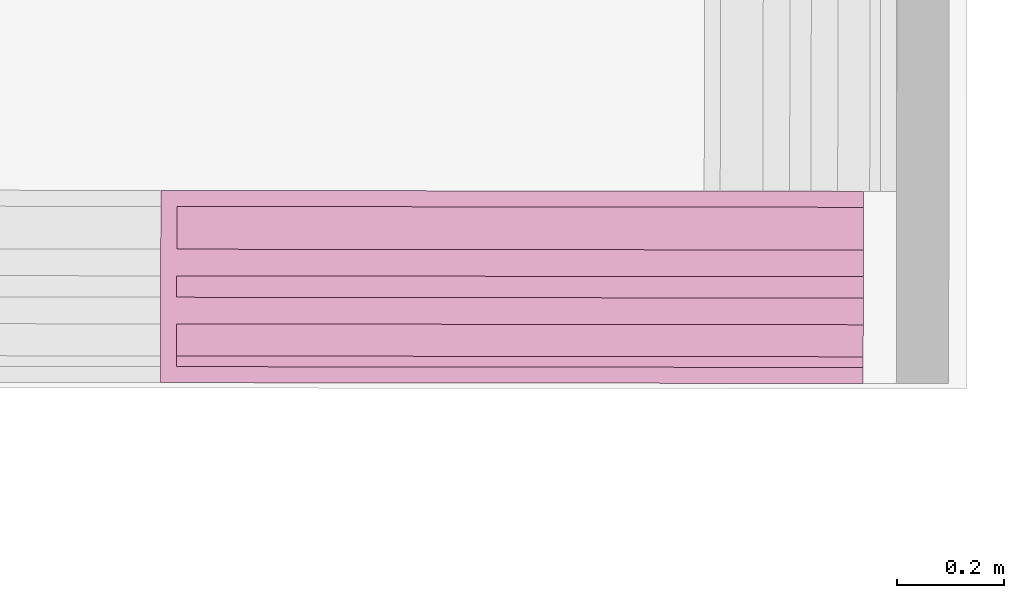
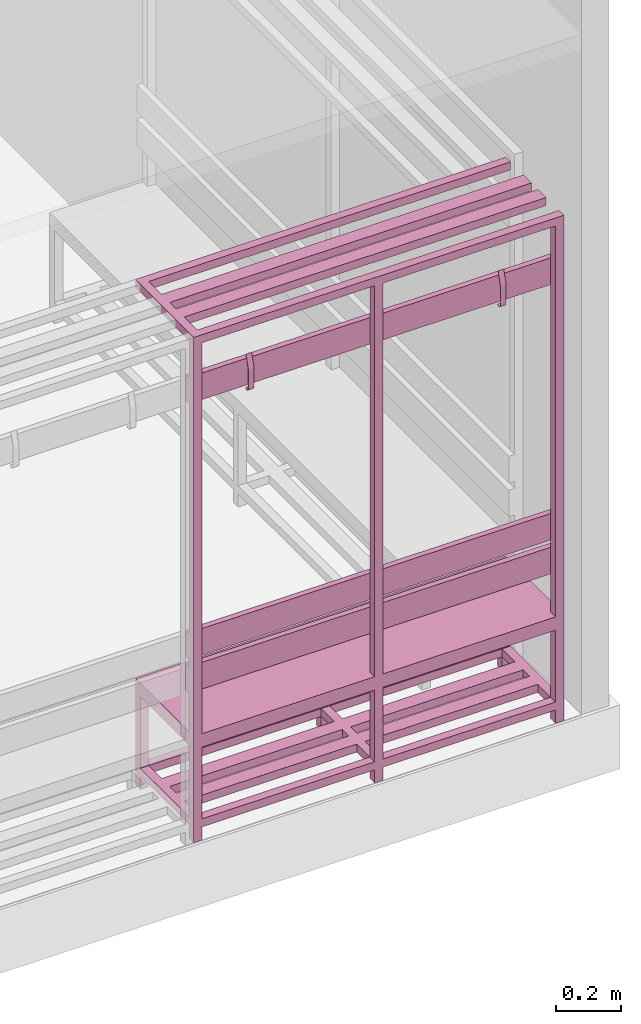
# One storey, part 39 of 43: 1 furnishing.
"""IFC2X3 building model written with IfcOpenShell, lengths in metres."""

from ifc_helpers import new_model, entity, si_unit, converted_unit, derived_unit, direction, frame, frame_2d, origin, origin_2d_with_axis, place, context, subcontext, project, spatial, polyline, circle_curve, parameter, trimmed, segment, composite_curve, rectangle, outline, extrude, source, transform, mapped, material, material_list, type_object, type_shapes, element, save


model = new_model("IFC2X3")

# Units and contexts
model_context = context("Model", 3, precision=1e-05, world=origin(), true_north=direction((6.123233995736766e-17, 1.0)))
body_context = subcontext(model_context, "Body", "Model", "MODEL_VIEW")
ifc_project = project(units=[si_unit("LENGTHUNIT", "METRE"), si_unit("AREAUNIT", "SQUARE_METRE"), converted_unit("PLANEANGLEUNIT", "DEGREE", entity("IfcPlaneAngleMeasure", 0.017453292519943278), si_unit("PLANEANGLEUNIT", "RADIAN"), dimensions=[0, 0, 0, 0, 0, 0, 0]), derived_unit("THERMALTRANSMITTANCEUNIT", [(si_unit("MASSUNIT", "GRAM", prefix="KILO"), 1), (si_unit("THERMODYNAMICTEMPERATUREUNIT", "KELVIN"), -1), (si_unit("TIMEUNIT", "SECOND"), -3)])], contexts=[model_context])

# Site, building, storey
site_placement = place(None, frame((1253.6752467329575, 2072.143113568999, 91.49999999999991), z_axis=(0.0, 0.0, 1.0), x_axis=(0.7237211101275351, 0.6900925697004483, 0.0)))
site = spatial("IfcSite", under=ifc_project, at=site_placement, Name="Surface", CompositionType="ELEMENT")
building_placement = place(site_placement, origin())
building = spatial("IfcBuilding", under=site, at=building_placement, CompositionType="ELEMENT")
storey_placement = place(building_placement, frame((0.0, 0.0, -4.629999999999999)))
storey = spatial("IfcBuildingStorey", under=building, at=storey_placement, Name="rez de rue -1.10m", CompositionType="ELEMENT", Elevation=-4.629999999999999)

# Furnishing
ifc_material_1 = material(Name="Peinture - Grise")
ifc_material_2 = material(Name="<Unnamed>")
ifc_material_3 = material(Name="mat2")
ifc_material_list = material_list([ifc_material_1, ifc_material_2, ifc_material_3])
furniture_type = type_object("IfcFurnitureType", Name="bancpateres:bancpateres", AssemblyPlace="NOTDEFINED", material=ifc_material_list)
shared_shape = source(origin(), body_context, "Body", "SweptSolid", [
    extrude(outline(composite_curve([segment(polyline([(-0.026119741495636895, -0.008725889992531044), (0.04695541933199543, -0.008725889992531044)]), True, "CONTINUOUS"), segment(trimmed(circle_curve(frame_2d((0.04695541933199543, 0.0020852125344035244), x_axis=(-1.0, 0.0)), 0.010811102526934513), [parameter(90.00000000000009)], [parameter(230.9999999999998)], True, "PARAMETER"), True, "CONTINUOUS"), segment(polyline([(0.05375906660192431, 0.010487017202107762), (0.05312974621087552, 0.009709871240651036)]), True, "CONTINUOUS"), segment(trimmed(circle_curve(frame_2d((0.04695541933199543, 0.0020852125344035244), x_axis=(-1.0, 0.0)), 0.009811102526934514), [parameter(90.00000000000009)], [parameter(230.99999999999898)], True, "PARAMETER"), False, "CONTINUOUS"), segment(polyline([(0.04695541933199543, -0.007725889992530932), (-0.025972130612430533, -0.007725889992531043)]), True, "CONTINUOUS"), segment(polyline([(-0.025972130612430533, -0.007725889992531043), (-0.07420942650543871, 0.00683201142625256)]), True, "CONTINUOUS"), segment(polyline([(-0.07420942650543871, 0.00683201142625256), (-0.07449835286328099, 0.005874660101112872)]), True, "CONTINUOUS"), segment(polyline([(-0.07449835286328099, 0.005874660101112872), (-0.026119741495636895, -0.008725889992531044)]), True, "CONTINUOUS")], self_intersect=False)), frame((-0.29593292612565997, -0.49127411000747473, 6.308572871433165), z_axis=(1.0, 0.0, 0.0), x_axis=(0.0, 0.0, -1.0)), (0.0, 0.0, 1.0), 0.019999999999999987),
    extrude(outline(composite_curve([segment(polyline([(-0.026119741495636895, -0.008725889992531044), (0.04695541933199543, -0.008725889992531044)]), True, "CONTINUOUS"), segment(trimmed(circle_curve(frame_2d((0.04695541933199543, 0.0020852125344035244), x_axis=(-1.0, 0.0)), 0.010811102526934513), [parameter(90.00000000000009)], [parameter(230.9999999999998)], True, "PARAMETER"), True, "CONTINUOUS"), segment(polyline([(0.05375906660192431, 0.010487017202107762), (0.05312974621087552, 0.00970987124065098)]), True, "CONTINUOUS"), segment(trimmed(circle_curve(frame_2d((0.04695541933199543, 0.0020852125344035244), x_axis=(-1.0, 0.0)), 0.009811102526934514), [parameter(90.00000000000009)], [parameter(230.99999999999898)], True, "PARAMETER"), False, "CONTINUOUS"), segment(polyline([(0.04695541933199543, -0.007725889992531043), (-0.025972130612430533, -0.007725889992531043)]), True, "CONTINUOUS"), segment(polyline([(-0.025972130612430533, -0.007725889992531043), (-0.07420942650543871, 0.00683201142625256)]), True, "CONTINUOUS"), segment(polyline([(-0.07420942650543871, 0.00683201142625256), (-0.07449835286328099, 0.005874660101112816)]), True, "CONTINUOUS"), segment(polyline([(-0.07449835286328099, 0.005874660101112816), (-0.026119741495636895, -0.008725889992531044)]), True, "CONTINUOUS")], self_intersect=False)), frame((0.15204564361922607, -0.4912741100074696, 6.308572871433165), z_axis=(1.0, 0.0, 0.0), x_axis=(0.0, 0.0, -1.0)), (0.0, 0.0, 1.0), 0.019999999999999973),
    extrude(outline(composite_curve([segment(polyline([(-0.026119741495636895, -0.008725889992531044), (0.04695541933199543, -0.008725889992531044)]), True, "CONTINUOUS"), segment(trimmed(circle_curve(frame_2d((0.04695541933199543, 0.002085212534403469), x_axis=(-1.0, 0.0)), 0.010811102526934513), [parameter(90.00000000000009)], [parameter(230.9999999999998)], True, "PARAMETER"), True, "CONTINUOUS"), segment(polyline([(0.05375906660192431, 0.010487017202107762), (0.05312974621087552, 0.00970987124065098)]), True, "CONTINUOUS"), segment(trimmed(circle_curve(frame_2d((0.04695541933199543, 0.002085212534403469), x_axis=(-1.0, 0.0)), 0.009811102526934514), [parameter(90.00000000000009)], [parameter(230.99999999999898)], True, "PARAMETER"), False, "CONTINUOUS"), segment(polyline([(0.04695541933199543, -0.007725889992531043), (-0.025972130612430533, -0.007725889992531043)]), True, "CONTINUOUS"), segment(polyline([(-0.025972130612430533, -0.007725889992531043), (-0.07420942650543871, 0.00683201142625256)]), True, "CONTINUOUS"), segment(polyline([(-0.07420942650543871, 0.00683201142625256), (-0.07449835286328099, 0.005874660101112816)]), True, "CONTINUOUS"), segment(polyline([(-0.07449835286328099, 0.005874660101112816), (-0.026119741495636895, -0.008725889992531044)]), True, "CONTINUOUS")], self_intersect=False)), frame((-0.7439114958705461, -0.49127411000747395, 6.308572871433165), z_axis=(1.0, 0.0, 0.0), x_axis=(0.0, 0.0, -1.0)), (0.0, 0.0, 1.0), 0.020000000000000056),
    extrude(rectangle(XDim=0.3599999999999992, YDim=0.030000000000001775, at=frame_2d((5.412337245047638e-16, -6.774095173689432e-16), x_axis=(1.0, 0.0))), frame((-0.2859329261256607, -0.33000000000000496, 4.679999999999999), z_axis=(0.0, 0.0, 1.0), x_axis=(0.0, 1.0, 0.0)), (0.0, 0.0, 1.0), 0.03),
    extrude(rectangle(XDim=1.3159571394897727, YDim=0.020000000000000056, at=origin_2d_with_axis()), frame((-0.2859329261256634, -0.470000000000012, 6.261999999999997), z_axis=(0.0, 0.0, 1.0), x_axis=(-1.0, 0.0, 0.0)), (0.0, 0.0, 1.0), 0.1),
    extrude(rectangle(XDim=1.3159571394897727, YDim=0.01999999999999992, at=frame_2d((0.0, 6.765421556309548e-17), x_axis=(1.0, 0.0))), frame((-0.2859329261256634, -0.47000000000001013, 5.300999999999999), z_axis=(0.0, 0.0, 1.0), x_axis=(-1.0, 0.0, 0.0)), (0.0, 0.0, 1.0), 0.09999999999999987),
    extrude(rectangle(XDim=1.3159571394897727, YDim=0.020000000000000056, at=origin_2d_with_axis()), frame((-0.2859329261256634, -0.47000000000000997, 5.173999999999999), z_axis=(0.0, 0.0, 1.0), x_axis=(-1.0, 0.0, 0.0)), (0.0, 0.0, 1.0), 0.09999999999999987),
    extrude(rectangle(XDim=0.02999999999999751, YDim=0.030000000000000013, at=frame_2d((0.0, 3.382710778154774e-17), x_axis=(1.0, 0.0))), frame((-0.2859329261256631, -0.495000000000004, 4.629999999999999), z_axis=(0.0, 0.0, 1.0), x_axis=(-1.0, 0.0, 0.0)), (0.0, 0.0, 1.0), 1.9000000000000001),
    extrude(rectangle(XDim=0.02999999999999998, YDim=0.02999999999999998, at=frame_2d((1.734723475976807e-17, -1.734723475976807e-17), x_axis=(1.0, 0.0))), frame((-0.28593292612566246, -0.16500000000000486, 4.629999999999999), z_axis=(0.0, 0.0, 1.0), x_axis=(-1.0, 0.0, 0.0)), (0.0, 0.0, 1.0), 0.38000000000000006),
    extrude(rectangle(XDim=1.3159571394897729, YDim=0.1, at=origin_2d_with_axis()), frame((-0.2859329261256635, -0.46000000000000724, 5.009999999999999), z_axis=(0.0, 0.0, 1.0), x_axis=(-1.0, 0.0, 0.0)), (0.0, 0.0, 1.0), 0.019999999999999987),
    extrude(rectangle(XDim=1.3159571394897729, YDim=0.1, at=origin_2d_with_axis()), frame((-0.2859329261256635, -0.40000000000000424, 5.009999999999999), z_axis=(0.0, 0.0, 1.0), x_axis=(-1.0, 0.0, 0.0)), (0.0, 0.0, 1.0), 0.019999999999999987),
    extrude(rectangle(XDim=1.3159571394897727, YDim=0.10000000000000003, at=frame_2d((0.0, 1.734723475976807e-17), x_axis=(1.0, 0.0))), frame((-0.2859329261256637, -0.3000000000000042, 5.009999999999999), z_axis=(0.0, 0.0, 1.0), x_axis=(-1.0, 0.0, 0.0)), (0.0, 0.0, 1.0), 0.019999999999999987),
    extrude(rectangle(XDim=1.3159571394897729, YDim=0.1, at=frame_2d((1.1102230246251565e-16, 0.0), x_axis=(1.0, 0.0))), frame((-0.28593292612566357, -0.20000000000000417, 5.009999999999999), z_axis=(0.0, 0.0, 1.0), x_axis=(-1.0, 0.0, 0.0)), (0.0, 0.0, 1.0), 0.019999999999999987),
    extrude(rectangle(XDim=0.36000000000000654, YDim=0.029999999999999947, at=frame_2d((0.0, -1.3530843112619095e-16), x_axis=(1.0, 0.0))), frame((-0.9289114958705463, -0.3300000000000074, 4.979999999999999), z_axis=(0.0, 0.0, 1.0), x_axis=(0.0, 1.0, 0.0)), (0.0, 0.0, 1.0), 0.030000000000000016),
    extrude(rectangle(XDim=0.360000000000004, YDim=0.03000000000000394, at=origin_2d_with_axis()), frame((0.35704564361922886, -0.3299999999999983, 4.979999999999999), z_axis=(0.0, 0.0, 1.0), x_axis=(0.0, 1.0, 0.0)), (0.0, 0.0, 1.0), 0.030000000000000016),
    extrude(rectangle(XDim=1.3159571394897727, YDim=0.030000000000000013, at=frame_2d((0.0, 3.382710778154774e-17), x_axis=(1.0, 0.0))), frame((-0.28593292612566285, -0.4950000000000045, 4.979999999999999), z_axis=(0.0, 0.0, 1.0), x_axis=(-1.0, 0.0, 0.0)), (0.0, 0.0, 1.0), 0.030000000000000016),
    extrude(rectangle(XDim=1.3159571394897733, YDim=0.02999999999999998, at=frame_2d((0.0, -1.734723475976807e-17), x_axis=(1.0, 0.0))), frame((-0.2859329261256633, -0.16500000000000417, 4.979999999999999), z_axis=(0.0, 0.0, 1.0), x_axis=(-1.0, 0.0, 0.0)), (0.0, 0.0, 1.0), 0.030000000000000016),
    extrude(rectangle(XDim=0.36000000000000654, YDim=0.030000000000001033, at=frame_2d((0.0, 1.3617579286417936e-16), x_axis=(1.0, 0.0))), frame((-0.9289114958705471, -0.3300000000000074, 4.679999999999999), z_axis=(0.0, 0.0, 1.0), x_axis=(0.0, 1.0, 0.0)), (0.0, 0.0, 1.0), 0.03),
    extrude(rectangle(XDim=0.36000000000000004, YDim=0.029999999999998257, at=origin_2d_with_axis()), frame((0.35704564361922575, -0.33000000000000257, 4.679999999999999), z_axis=(0.0, 0.0, 1.0), x_axis=(0.0, 1.0, 0.0)), (0.0, 0.0, 1.0), 0.03),
    extrude(rectangle(XDim=0.04999999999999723, YDim=1.3159571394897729, at=origin_2d_with_axis()), frame((-0.28593292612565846, -0.28500000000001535, 4.679999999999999), z_axis=(0.0, 0.0, 1.0), x_axis=(0.0, 1.0, 0.0)), (0.0, 0.0, 1.0), 0.03),
    extrude(rectangle(XDim=0.0499999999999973, YDim=1.3159571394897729, at=frame_2d((3.469446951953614e-17, 0.0), x_axis=(1.0, 0.0))), frame((-0.2859329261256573, -0.3750000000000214, 4.679999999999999), z_axis=(0.0, 0.0, 1.0), x_axis=(0.0, 1.0, 0.0)), (0.0, 0.0, 1.0), 0.03),
    extrude(rectangle(XDim=1.3159571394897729, YDim=0.030000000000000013, at=frame_2d((1.1102230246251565e-16, 3.382710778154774e-17), x_axis=(1.0, 0.0))), frame((-0.28593292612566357, -0.4950000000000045, 4.679999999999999), z_axis=(0.0, 0.0, 1.0), x_axis=(-1.0, 0.0, 0.0)), (0.0, 0.0, 1.0), 0.03),
    extrude(rectangle(XDim=1.3159571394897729, YDim=0.02999999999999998, at=frame_2d((1.1102230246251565e-16, -1.734723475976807e-17), x_axis=(1.0, 0.0))), frame((-0.28593292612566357, -0.16500000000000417, 4.679999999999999), z_axis=(0.0, 0.0, 1.0), x_axis=(-1.0, 0.0, 0.0)), (0.0, 0.0, 1.0), 0.03),
    extrude(rectangle(XDim=0.030000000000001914, YDim=0.030000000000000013, at=frame_2d((3.382710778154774e-17, -3.382710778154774e-17), x_axis=(1.0, 0.0))), frame((0.35704564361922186, -0.49500000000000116, 4.629999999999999), z_axis=(0.0, 0.0, 1.0), x_axis=(-1.0, 0.0, 0.0)), (0.0, 0.0, 1.0), 1.9000000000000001),
    extrude(rectangle(XDim=0.030000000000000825, YDim=0.02999999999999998, at=frame_2d((3.382710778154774e-17, -1.734723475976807e-17), x_axis=(1.0, 0.0))), frame((0.35704564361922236, -0.16500000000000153, 4.629999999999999), z_axis=(0.0, 0.0, 1.0), x_axis=(-1.0, 0.0, 0.0)), (0.0, 0.0, 1.0), 0.38000000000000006),
    extrude(rectangle(XDim=0.029999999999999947, YDim=0.030000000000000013, at=frame_2d((0.0, -3.382710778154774e-17), x_axis=(1.0, 0.0))), frame((-0.9289114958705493, -0.4950000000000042, 4.629999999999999), z_axis=(0.0, 0.0, 1.0), x_axis=(-1.0, 0.0, 0.0)), (0.0, 0.0, 1.0), 1.9000000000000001),
    extrude(rectangle(XDim=0.029999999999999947, YDim=0.02999999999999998, at=frame_2d((0.0, -1.734723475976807e-17), x_axis=(1.0, 0.0))), frame((-0.9289114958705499, -0.16500000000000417, 4.629999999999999), z_axis=(0.0, 0.0, 1.0), x_axis=(-1.0, 0.0, 0.0)), (0.0, 0.0, 1.0), 0.38000000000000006),
    extrude(rectangle(XDim=0.36000000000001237, YDim=0.029999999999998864, at=frame_2d((0.0, 1.3530843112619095e-16), x_axis=(1.0, 0.0))), frame((-0.9289114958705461, -0.33000000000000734, 6.499999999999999), z_axis=(0.0, 0.0, 1.0), x_axis=(0.0, 1.0, 0.0)), (0.0, 0.0, 1.0), 0.029999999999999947),
    extrude(rectangle(XDim=0.049999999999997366, YDim=1.3159571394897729, at=origin_2d_with_axis()), frame((-0.28593292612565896, -0.28500000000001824, 6.499999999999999), z_axis=(0.0, 0.0, 1.0), x_axis=(0.0, 1.0, 0.0)), (0.0, 0.0, 1.0), 0.029999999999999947),
    extrude(rectangle(XDim=0.04999999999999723, YDim=1.3159571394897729, at=frame_2d((3.469446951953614e-17, 0.0), x_axis=(1.0, 0.0))), frame((-0.2859329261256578, -0.3750000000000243, 6.499999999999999), z_axis=(0.0, 0.0, 1.0), x_axis=(0.0, 1.0, 0.0)), (0.0, 0.0, 1.0), 0.029999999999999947),
    extrude(rectangle(XDim=1.3159571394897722, YDim=0.030000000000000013, at=frame_2d((0.0, -3.382710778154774e-17), x_axis=(1.0, 0.0))), frame((-0.28593292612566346, -0.4950000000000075, 6.499999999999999), z_axis=(0.0, 0.0, 1.0), x_axis=(-1.0, 0.0, 0.0)), (0.0, 0.0, 1.0), 0.029999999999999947),
    extrude(rectangle(XDim=1.3159571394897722, YDim=0.02999999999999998, at=frame_2d((0.0, -1.734723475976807e-17), x_axis=(1.0, 0.0))), frame((-0.28593292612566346, -0.16500000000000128, 6.499999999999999), z_axis=(0.0, 0.0, 1.0), x_axis=(-1.0, 0.0, 0.0)), (0.0, 0.0, 1.0), 0.029999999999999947),
])
type_shapes(furniture_type, [shared_shape])
furnishing_placement = place(storey_placement, frame((175.34620057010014, -12.861264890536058, -4.629999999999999), z_axis=(0.0, 0.0, 1.0), x_axis=(0.7228702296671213, -0.6909838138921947, 0.0)))
element("IfcFurnishingElement", 1, at=furnishing_placement, inside=storey, type_object=furniture_type, material=ifc_material_list, Name="bancpateres:bancpateres", ObjectType="bancpateres:bancpateres", context=body_context, shape_type="MappedRepresentation", body=[
    mapped(shared_shape, transform((0.0, 0.0, 0.0), scale=1.0)),
])

save(model, "model.ifc")
